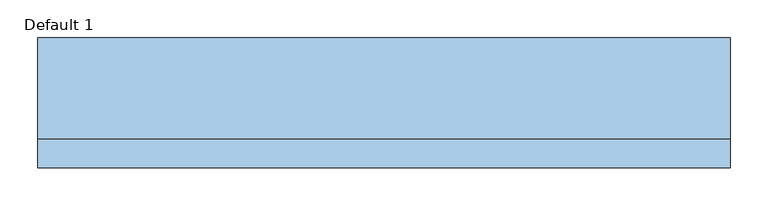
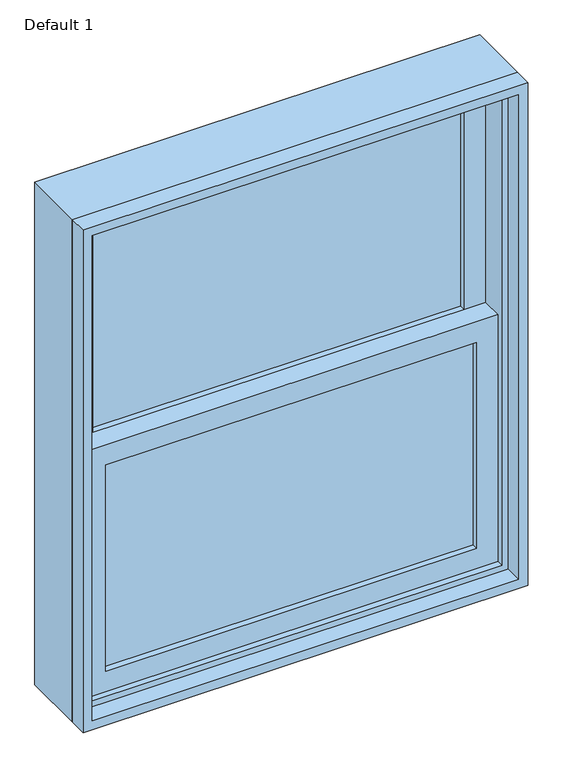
"""IFC4 building model written with IfcOpenShell, lengths in millimetres: window geometry, Planitar-Double-Hung-Single : Default 1."""

from ifc_helpers import new_model, si_unit, frame, origin, place, context, project, spatial, polyline, outline, extrude, source, transform, mapped, element, save


def default_1_0b7c2a07(model_context):
    return source(origin(), model_context, "Body", "SweptSolid", [
        extrude(outline(polyline([(381.0, 6.35), (381.0, 0.0), (-381.0, 0.0), (-381.0, 6.35), (381.0, 6.35)])), frame((0.0, 0.0, 990.6), z_axis=(0.0, 0.0, 1.0), x_axis=(1.0, 0.0, 0.0)), (0.0, 0.0, 1.0), 447.675),
        extrude(outline(polyline([(-381.0, -6.35), (381.0, -6.35), (381.0, -12.7), (-381.0, -12.7), (-381.0, -6.35)])), frame((0.0, 0.0, 990.6), z_axis=(0.0, 0.0, 1.0), x_axis=(1.0, 0.0, 0.0)), (0.0, 0.0, 1.0), 447.675),
        extrude(outline(polyline([(381.0, 50.8), (381.0, 44.45), (-381.0, 44.45), (-381.0, 50.8), (381.0, 50.8)])), frame((0.0, 0.0, 1482.725), z_axis=(0.0, 0.0, 1.0), x_axis=(1.0, 0.0, 0.0)), (0.0, 0.0, 1.0), 447.675),
        extrude(outline(polyline([(-381.0, 38.1), (381.0, 38.1), (381.0, 31.75), (-381.0, 31.75), (-381.0, 38.1)])), frame((0.0, 0.0, 1482.725), z_axis=(0.0, 0.0, 1.0), x_axis=(1.0, 0.0, 0.0)), (0.0, 0.0, 1.0), 447.675),
        extrude(outline(polyline([(1482.725, -425.45), (946.15, -425.45), (946.15, 425.45), (1482.725, 425.45), (1482.725, -425.45)]), holes=[polyline([(1438.275, 381.0), (990.6, 381.0), (990.6, -381.0), (1438.275, -381.0), (1438.275, 381.0)])]), frame((0.0, -25.4, 0.0), z_axis=(0.0, 1.0, 0.0), x_axis=(0.0, 0.0, 1.0)), (0.0, 0.0, 1.0), 44.45),
        extrude(outline(polyline([(1974.85, -425.45), (1438.275, -425.45), (1438.275, 425.45), (1974.85, 425.45), (1974.85, -425.45)]), holes=[polyline([(1930.4, 381.0), (1482.725, 381.0), (1482.725, -381.0), (1930.4, -381.0), (1930.4, 381.0)])]), frame((0.0, 19.05, 0.0), z_axis=(0.0, 1.0, 0.0), x_axis=(0.0, 0.0, 1.0)), (0.0, 0.0, 1.0), 44.45),
        extrude(outline(polyline([(2006.6, -457.2), (914.4, -457.2), (914.4, 457.2), (2006.6, 457.2), (2006.6, -457.2)]), holes=[polyline([(1974.85, 425.45), (946.15, 425.45), (946.15, -425.45), (1974.85, -425.45), (1974.85, 425.45)])]), frame((0.0, -38.1, 0.0), z_axis=(0.0, 1.0, 0.0), x_axis=(0.0, 0.0, 1.0)), (0.0, 0.0, 1.0), 133.35),
        extrude(outline(polyline([(2006.6, 457.2), (2006.6, -457.2), (914.4, -457.2), (914.4, 457.2), (2006.6, 457.2)]), holes=[polyline([(1987.55, 438.15), (933.45, 438.15), (933.45, -438.15), (1987.55, -438.15), (1987.55, 438.15)])]), frame((0.0, -76.2, 0.0), z_axis=(0.0, 1.0, 0.0), x_axis=(0.0, 0.0, 1.0)), (0.0, 0.0, 1.0), 38.1),
    ])


if __name__ == "__main__":
    model = new_model("IFC4")
    model_context = context("Model", 3, world=origin())
    ifc_project = project(units=[si_unit("LENGTHUNIT", "METRE", prefix="MILLI")], contexts=[model_context])
    site = spatial("IfcSite", under=ifc_project)
    building = spatial("IfcBuilding", under=site)
    placement = place(None, origin())
    default_1_shape = default_1_0b7c2a07(model_context)
    element("IfcWindow", 1, ObjectType="Planitar-Double-Hung-Single : Default 1", at=placement, inside=building, context=model_context, shape_type="MappedRepresentation", body=[
        mapped(default_1_shape, transform((0.0, 0.0, 0.0), x_axis=(1.0, 0.0, 0.0), y_axis=(0.0, 1.0, 0.0), z_axis=(0.0, 0.0, 1.0))),
    ])
    save(model, "model.ifc")
